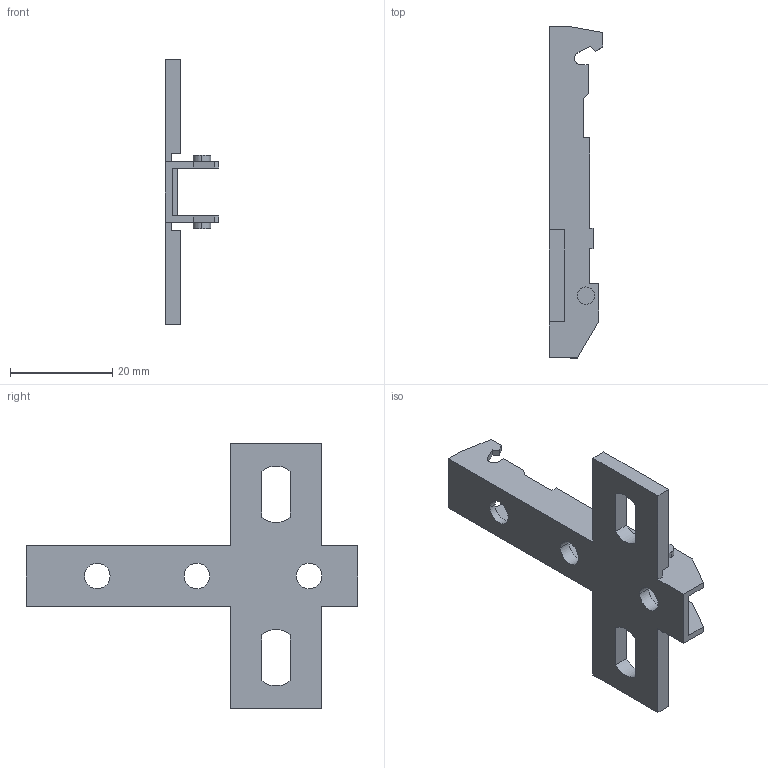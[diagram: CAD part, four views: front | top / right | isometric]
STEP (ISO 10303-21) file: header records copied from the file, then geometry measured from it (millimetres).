
FILE_DESCRIPTION (( 'STEP AP214' ), '1' );
FILE_NAME ('Eco Kreuzmontageplatte LR28_32_Euro_H00.step', '2010-11-18T10:05:46', ( 'grass' ), ( '' ), 'SwSTEP 2.0', 'SolidWorks 2010', '' );
FILE_SCHEMA (( 'AUTOMOTIVE_DESIGN' ));
Length unit declared in the file: millimetre
Products named in the file (1): Eco Kreuzmontageplatte LR28_32_Euro_H00
Bounding box: 10.5 x 65 x 52 mm (x, y, z)
Volume: 4014.4 mm3; surface area: 5225.8 mm2
Topology: 1 solids, 1 shells, 82 faces, 234 edges, 156 vertices
Faces by surface type: plane 66, cylinder 16
Entity records: 2704 total; most frequent: CARTESIAN_POINT 473, ORIENTED_EDGE 468, DIRECTION 432, EDGE_CURVE 234, VECTOR 202, LINE 202, VERTEX_POINT 156, AXIS2_PLACEMENT_3D 115
